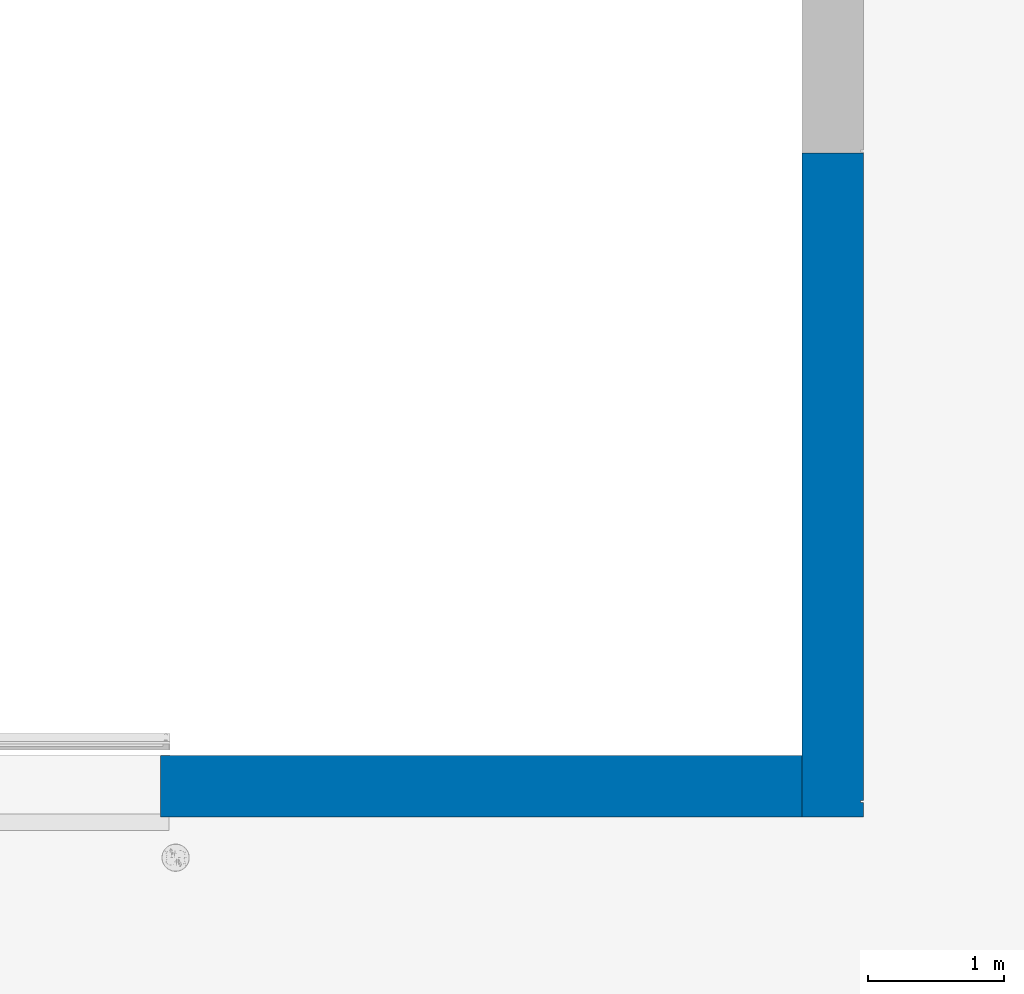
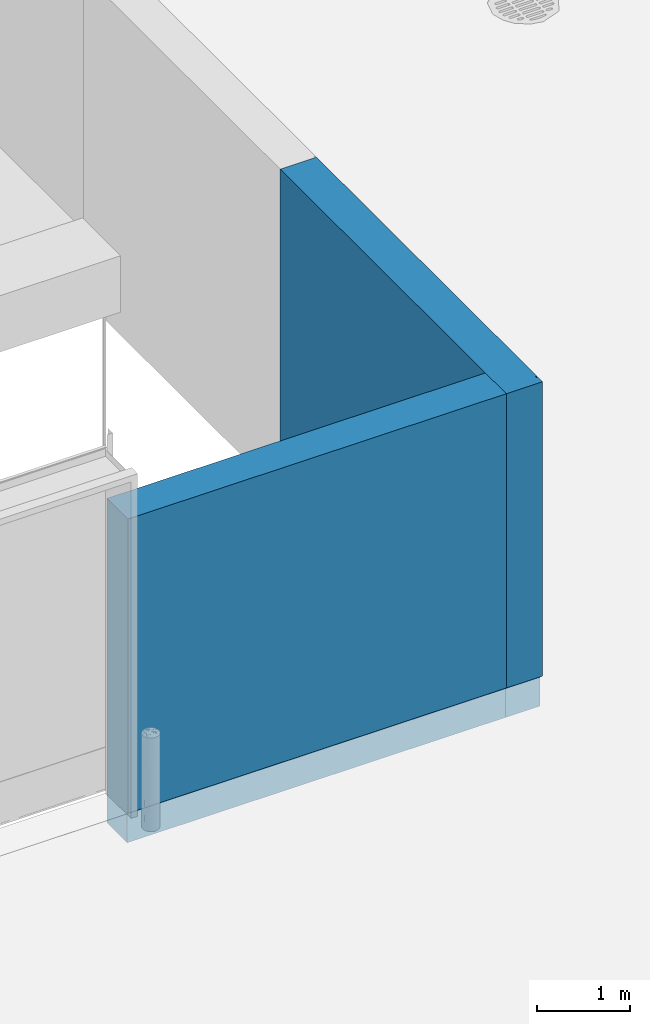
# One storey, part 16 of 77: 2 walls, 4 openings.
"""IFC2X3 building model written with IfcOpenShell, lengths in millimetres."""

from ifc_helpers import new_model, entity, si_unit, converted_unit, derived_unit, direction, frame, frame_2d, origin, origin_2d_with_axis, place, context, subcontext, project, spatial, rectangle, extrude, faceted_brep, material, layer, layer_set, layer_usage, type_object, element, save


model = new_model("IFC2X3")

# Units and contexts
model_context = context("Model", 3, precision=0.01, world=origin(), true_north=direction((6.12303176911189e-17, 1.0)))
body_context = subcontext(model_context, "Body", "Model", "MODEL_VIEW")
ifc_project = project(units=[si_unit("LENGTHUNIT", "METRE", prefix="MILLI"), si_unit("AREAUNIT", "SQUARE_METRE"), si_unit("VOLUMEUNIT", "CUBIC_METRE"), converted_unit("PLANEANGLEUNIT", "DEGREE", entity("IfcRatioMeasure", 0.0174532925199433), si_unit("PLANEANGLEUNIT", "RADIAN"), dimensions=[0, 0, 0, 0, 0, 0, 0]), si_unit("MASSUNIT", "GRAM", prefix="KILO"), derived_unit("MASSDENSITYUNIT", [(si_unit("MASSUNIT", "GRAM", prefix="KILO"), 1), (si_unit("LENGTHUNIT", "METRE"), -3)]), si_unit("TIMEUNIT", "SECOND"), si_unit("FREQUENCYUNIT", "HERTZ"), si_unit("THERMODYNAMICTEMPERATUREUNIT", "DEGREE_CELSIUS"), derived_unit("THERMALTRANSMITTANCEUNIT", [(si_unit("MASSUNIT", "GRAM", prefix="KILO"), 1), (si_unit("THERMODYNAMICTEMPERATUREUNIT", "KELVIN"), -1), (si_unit("TIMEUNIT", "SECOND"), -3)]), derived_unit("VOLUMETRICFLOWRATEUNIT", [(si_unit("LENGTHUNIT", "METRE"), 3), (si_unit("TIMEUNIT", "SECOND"), -1)]), si_unit("ELECTRICCURRENTUNIT", "AMPERE"), si_unit("ELECTRICVOLTAGEUNIT", "VOLT"), si_unit("POWERUNIT", "WATT"), si_unit("FORCEUNIT", "NEWTON", prefix="KILO"), si_unit("ILLUMINANCEUNIT", "LUX"), si_unit("LUMINOUSFLUXUNIT", "LUMEN"), si_unit("LUMINOUSINTENSITYUNIT", "CANDELA"), derived_unit("USERDEFINED", [(si_unit("MASSUNIT", "GRAM", prefix="KILO"), -1), (si_unit("LENGTHUNIT", "METRE"), -2), (si_unit("TIMEUNIT", "SECOND"), 3), (si_unit("LUMINOUSFLUXUNIT", "LUMEN"), 1)]), derived_unit("LINEARVELOCITYUNIT", [(si_unit("LENGTHUNIT", "METRE"), 1), (si_unit("TIMEUNIT", "SECOND"), -1)]), si_unit("PRESSUREUNIT", "PASCAL"), derived_unit("USERDEFINED", [(si_unit("LENGTHUNIT", "METRE"), -2), (si_unit("MASSUNIT", "GRAM", prefix="KILO"), 1), (si_unit("TIMEUNIT", "SECOND"), -2)])], contexts=[model_context])

# Site, building, storey
site_placement = place(None, origin())
site = spatial("IfcSite", under=ifc_project, at=site_placement, Name="Default", CompositionType="ELEMENT")
building_placement = place(site_placement, origin())
building = spatial("IfcBuilding", under=site, at=building_placement, CompositionType="ELEMENT")
storey_placement = place(building_placement, origin())
storey = spatial("IfcBuildingStorey", under=building, at=storey_placement, Name="1. KORRUS", CompositionType="ELEMENT", Elevation=0.0)

# Wall, openings
ifc_material_1 = material(Name="RECKLI 1 173 THUR by Polantis 2016-toon4")
ifc_layer_1 = layer(ifc_material_1, 100.0)
ifc_material_2 = material(Name="Soojusisolatsioon EPS")
ifc_layer_2 = layer(ifc_material_2, 200.0)
ifc_material_3 = material(Name="r/b")
ifc_layer_3 = layer(ifc_material_3, 150.0)
ifc_layer_set = layer_set([ifc_layer_1, ifc_layer_2, ifc_layer_3], Name="Basic Wall:VS-1_toon-a")
ifc_layer_usage_1 = layer_usage(ifc_layer_set, "AXIS2", "NEGATIVE", 225.0)
wall_type = type_object("IfcWallType", Name="Basic Wall:VS-1_toon-a", PredefinedType="STANDARD", material=ifc_layer_set)
wall_1_placement = place(storey_placement, frame((39500.0, -225.0, -400.0), z_axis=(0.0, 0.0, 1.0), x_axis=(-1.0, 0.0, 0.0)))
wall_1 = element("IfcWallStandardCase", 1, at=wall_1_placement, inside=storey, type_object=wall_type, material=ifc_layer_usage_1, Name="Basic Wall:VS-1_toon-a", ObjectType="Basic Wall:VS-1_toon-a", context=body_context, shape_type="SweptSolid", body=[
    extrude(rectangle(XDim=4700.0, YDim=450.0, at=frame_2d((2350.0, -4.2632564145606e-14), x_axis=(-1.0, 0.0))), origin(), (0.0, 0.0, 1.0), 4265.0),
])
opening_1_placement = place(wall_1_placement, origin())
element("IfcOpeningElement", 2, at=opening_1_placement, cuts=wall_1, Name="Basic Wall:VS-1_toon-a", ObjectType="Opening", context=body_context, shape_type="SweptSolid", body=[
    extrude(rectangle(XDim=4499.99999999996, YDim=3600.0, at=frame_2d((2.1600499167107e-12, 0.0), x_axis=(0.0, 1.0))), frame((6500.0, -1749.0, 2650.0), z_axis=(0.0, 1.0, 0.0), x_axis=(-1.0, 0.0, 0.0)), (0.0, 0.0, 1.0), 3048.0),
])
opening_2_placement = place(wall_1_placement, origin())
element("IfcOpeningElement", 3, at=opening_2_placement, cuts=wall_1, Name="Basic Wall:VS-1_toon-a", ObjectType="Opening", context=body_context, shape_type="Brep", body=[
    faceted_brep([(39930.0, -28255.0, 400.0), (39930.0, -28255.0, 0.0), (39950.0, -28275.0, 0.0), (39950.0, -28275.0, 400.0), (39930.0, -23515.0, 400.0), (39950.0, -23515.0, 400.0), (39950.0, -23515.0, 0.0), (39930.0, -23515.0, 0.0)], [[[0, 1, 2, 3]], [[4, 5, 6, 7]], [[1, 0, 4, 7]], [[2, 1, 7, 6]], [[3, 2, 6, 5]], [[0, 3, 5, 4]]]),
    faceted_brep([(39930.0, -28255.0, 400.0), (39950.0, -28275.0, 400.0), (39950.0, -28275.0, 0.0), (39930.0, -28255.0, 0.0), (35590.0, -28255.0, 400.0), (35590.0, -28255.0, 0.0), (35590.0, -28275.0, 0.0), (35590.0, -28275.0, 400.0)], [[[0, 1, 2, 3]], [[4, 5, 6, 7]], [[1, 0, 4, 7]], [[2, 1, 7, 6]], [[3, 2, 6, 5]], [[0, 3, 5, 4]]]),
    faceted_brep([(29870.0, -28255.0, 400.0), (29850.0, -28275.0, 400.0), (29850.0, -28275.0, 0.0), (29870.0, -28255.0, 0.0), (29870.0, -22155.0517807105, 400.0), (29870.0, -22155.0517807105, 0.0), (29850.0, -22175.0517807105, 0.0), (29850.0, -22175.0517807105, 400.0)], [[[0, 1, 2, 3]], [[4, 5, 6, 7]], [[1, 0, 4, 7]], [[2, 1, 7, 6]], [[3, 2, 6, 5]], [[0, 3, 5, 4]]]),
    faceted_brep([(25150.0, -22155.0517807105, 400.0), (25150.0, -22175.0517807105, 400.0), (25150.0, -22175.0517807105, 0.0), (25150.0, -22155.0517807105, 0.0), (24620.0, -22155.0517807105, 400.0), (24620.0, -22155.0517807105, 0.0), (24620.0, -22175.0517807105, 0.0), (24620.0, -22175.0517807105, 400.0)], [[[0, 1, 2, 3]], [[4, 5, 6, 7]], [[1, 0, 4, 7]], [[2, 1, 7, 6]], [[3, 2, 6, 5]], [[0, 3, 5, 4]]]),
    faceted_brep([(-430.0, -22155.0517807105, 400.0), (-450.0, -22175.0517807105, 400.0), (-450.0, -22175.0517807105, 0.0), (-430.0, -22155.0517807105, 0.0), (-430.0, -16015.0, 400.0), (-430.0, -16015.0, 0.0), (-450.0, -16015.0, 0.0), (-450.0, -16015.0, 400.0)], [[[0, 1, 2, 3]], [[4, 5, 6, 7]], [[1, 0, 4, 7]], [[2, 1, 7, 6]], [[3, 2, 6, 5]], [[0, 3, 5, 4]]]),
    faceted_brep([(-430.0, 205.0, 400.0), (-450.0, 225.0, 400.0), (-450.0, 225.0, 0.0), (-430.0, 205.0, 0.0), (4700.0, 205.0, 400.0), (4700.0, 205.0, 0.0), (4700.0, 225.0, 0.0), (4700.0, 225.0, 400.0)], [[[0, 1, 2, 3]], [[4, 5, 6, 7]], [[1, 0, 4, 7]], [[2, 1, 7, 6]], [[3, 2, 6, 5]], [[0, 3, 5, 4]]]),
    faceted_brep([(28100.0, 205.0, 400.0), (28100.0, 225.0, 400.0), (28100.0, 225.0, 0.0), (28100.0, 205.0, 0.0), (31885.0, 205.0, 400.0), (31885.0, 205.0, 0.0), (31885.0, 225.0, 0.0), (31885.0, 225.0, 400.0)], [[[0, 1, 2, 3]], [[4, 5, 6, 7]], [[1, 0, 4, 7]], [[2, 1, 7, 6]], [[3, 2, 6, 5]], [[0, 3, 5, 4]]]),
    faceted_brep([(-430.0, -12985.0, 400.0), (-450.0, -12985.0, 400.0), (-450.0, -12985.0, 0.0), (-430.0, -12985.0, 0.0), (-430.0, -8868.33000000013, 400.0), (-430.0, -8868.33000000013, 0.0), (-450.0, -8868.33000000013, 0.0), (-450.0, -8868.33000000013, 400.0)], [[[0, 1, 2, 3]], [[4, 5, 6, 7]], [[1, 0, 4, 7]], [[2, 1, 7, 6]], [[3, 2, 6, 5]], [[0, 3, 5, 4]]]),
    faceted_brep([(8300.0, 205.0, 400.0), (8300.0, 225.0, 400.0), (8300.0, 225.0, 0.0), (8300.0, 205.0, 0.0), (10700.0, 205.0, 400.0), (10700.0, 205.0, 0.0), (10700.0, 225.0, 0.0), (10700.0, 225.0, 400.0)], [[[0, 1, 2, 3]], [[4, 5, 6, 7]], [[1, 0, 4, 7]], [[2, 1, 7, 6]], [[3, 2, 6, 5]], [[0, 3, 5, 4]]]),
    faceted_brep([(35709.969176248, 205.0, 400.0), (35709.969176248, 225.0, 400.0), (35709.969176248, 225.0, 0.0), (35709.969176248, 205.0, 0.0), (38194.969176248, 205.0, 400.0), (38194.969176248, 205.0, 0.0), (38194.969176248, 225.0, 0.0), (38194.969176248, 225.0, 400.0)], [[[0, 1, 2, 3]], [[4, 5, 6, 7]], [[1, 0, 4, 7]], [[2, 1, 7, 6]], [[3, 2, 6, 5]], [[0, 3, 5, 4]]]),
    faceted_brep([(23500.0, 205.0, 400.0), (23500.0, 225.0, 400.0), (23500.0, 225.0, 0.0), (23500.0, 205.0, 0.0), (24500.0, 205.0, 400.0), (24500.0, 205.0, 0.0), (24500.0, 225.0, 0.0), (24500.0, 225.0, 400.0)], [[[0, 1, 2, 3]], [[4, 5, 6, 7]], [[1, 0, 4, 7]], [[2, 1, 7, 6]], [[3, 2, 6, 5]], [[0, 3, 5, 4]]]),
    faceted_brep([(18899.9683370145, 205.0, 400.0), (18899.9683370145, 225.0, 400.0), (18899.9683370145, 225.0, 0.0), (18899.9683370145, 205.0, 0.0), (19900.0, 205.0, 400.0), (19900.0, 205.0, 0.0), (19900.0, 225.0, 0.0), (19900.0, 225.0, 400.0)], [[[0, 1, 2, 3]], [[4, 5, 6, 7]], [[1, 0, 4, 7]], [[2, 1, 7, 6]], [[3, 2, 6, 5]], [[0, 3, 5, 4]]]),
    faceted_brep([(14299.9683370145, 205.0, 400.0), (14299.9683370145, 225.0, 400.0), (14299.9683370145, 225.0, 0.0), (14299.9683370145, 205.0, 0.0), (15300.0, 205.0, 400.0), (15300.0, 205.0, 0.0), (15300.0, 225.0, 0.0), (15300.0, 225.0, 400.0)], [[[0, 1, 2, 3]], [[4, 5, 6, 7]], [[1, 0, 4, 7]], [[2, 1, 7, 6]], [[3, 2, 6, 5]], [[0, 3, 5, 4]]]),
    faceted_brep([(-430.0, -4640.0, 400.0), (-450.0, -4640.0, 400.0), (-450.0, -4640.0, 0.0), (-430.0, -4640.0, 0.0), (-430.0, 205.0, 400.0), (-430.0, 205.0, 0.0), (-450.0, 225.0, 0.0), (-450.0, 225.0, 400.0)], [[[0, 1, 2, 3]], [[4, 5, 6, 7]], [[1, 0, 4, 7]], [[2, 1, 7, 6]], [[3, 2, 6, 5]], [[0, 3, 5, 4]]]),
    faceted_brep([(-430.0, -8868.33000000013, 400.0), (-450.0, -8868.33000000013, 400.0), (-450.0, -8868.33000000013, 0.0), (-430.0, -8868.33000000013, 0.0), (-430.0, -4640.0, 400.0), (-430.0, -4640.0, 0.0), (-450.0, -4640.0, 0.0), (-450.0, -4640.0, 400.0)], [[[0, 1, 2, 3]], [[4, 5, 6, 7]], [[1, 0, 4, 7]], [[2, 1, 7, 6]], [[3, 2, 6, 5]], [[0, 3, 5, 4]]]),
    faceted_brep([(-430.0, -16015.0, 400.0), (-450.0, -16015.0, 400.0), (-450.0, -16015.0, 0.0), (-430.0, -16015.0, 0.0), (-430.0, -12985.0, 400.0), (-430.0, -12985.0, 0.0), (-450.0, -12985.0, 0.0), (-450.0, -12985.0, 400.0)], [[[0, 1, 2, 3]], [[4, 5, 6, 7]], [[1, 0, 4, 7]], [[2, 1, 7, 6]], [[3, 2, 6, 5]], [[0, 3, 5, 4]]]),
    faceted_brep([(5529.8964297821, -22155.0517807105, 400.0), (5529.8964297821, -22175.0517807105, 400.0), (5529.8964297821, -22175.0517807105, 0.0), (5529.8964297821, -22155.0517807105, 0.0), (-430.0, -22155.0517807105, 400.0), (-430.0, -22155.0517807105, 0.0), (-450.0, -22175.0517807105, 0.0), (-450.0, -22175.0517807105, 400.0)], [[[0, 1, 2, 3]], [[4, 5, 6, 7]], [[1, 0, 4, 7]], [[2, 1, 7, 6]], [[3, 2, 6, 5]], [[0, 3, 5, 4]]]),
    faceted_brep([(10836.7838512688, -22155.0517807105, 400.0), (10836.7838512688, -22175.0517807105, 400.0), (10836.7838512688, -22175.0517807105, 0.0), (10836.7838512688, -22155.0517807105, 0.0), (5529.8964297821, -22155.0517807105, 400.0), (5529.8964297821, -22155.0517807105, 0.0), (5529.8964297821, -22175.0517807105, 0.0), (5529.8964297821, -22175.0517807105, 400.0)], [[[0, 1, 2, 3]], [[4, 5, 6, 7]], [[1, 0, 4, 7]], [[2, 1, 7, 6]], [[3, 2, 6, 5]], [[0, 3, 5, 4]]]),
    faceted_brep([(31885.0, 205.0, 400.0), (31885.0, 225.0, 400.0), (31885.0, 225.0, 0.0), (31885.0, 205.0, 0.0), (35709.969176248, 205.0, 400.0), (35709.969176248, 205.0, 0.0), (35709.969176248, 225.0, 0.0), (35709.969176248, 225.0, 400.0)], [[[0, 1, 2, 3]], [[4, 5, 6, 7]], [[1, 0, 4, 7]], [[2, 1, 7, 6]], [[3, 2, 6, 5]], [[0, 3, 5, 4]]]),
    faceted_brep([(17415.0, -22155.0517807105, 400.0), (17415.0, -22175.0517807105, 400.0), (17415.0, -22175.0517807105, 0.0), (17415.0, -22155.0517807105, 0.0), (10836.7838512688, -22155.0517807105, 400.0), (10836.7838512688, -22155.0517807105, 0.0), (10836.7838512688, -22175.0517807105, 0.0), (10836.7838512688, -22175.0517807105, 400.0)], [[[0, 1, 2, 3]], [[4, 5, 6, 7]], [[1, 0, 4, 7]], [[2, 1, 7, 6]], [[3, 2, 6, 5]], [[0, 3, 5, 4]]]),
    faceted_brep([(21246.6471089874, -22155.0517807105, 400.0), (21246.6471089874, -22175.0517807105, 400.0), (21246.6471089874, -22175.0517807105, 0.0), (21246.6471089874, -22155.0517807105, 0.0), (17415.0, -22155.0517807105, 400.0), (17415.0, -22155.0517807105, 0.0), (17415.0, -22175.0517807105, 0.0), (17415.0, -22175.0517807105, 400.0)], [[[0, 1, 2, 3]], [[4, 5, 6, 7]], [[1, 0, 4, 7]], [[2, 1, 7, 6]], [[3, 2, 6, 5]], [[0, 3, 5, 4]]]),
    faceted_brep([(24620.0, -22155.0517807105, 400.0), (24620.0, -22175.0517807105, 400.0), (24620.0, -22175.0517807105, 0.0), (24620.0, -22155.0517807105, 0.0), (21246.6471089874, -22155.0517807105, 400.0), (21246.6471089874, -22155.0517807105, 0.0), (21246.6471089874, -22175.0517807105, 0.0), (21246.6471089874, -22175.0517807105, 400.0)], [[[0, 1, 2, 3]], [[4, 5, 6, 7]], [[1, 0, 4, 7]], [[2, 1, 7, 6]], [[3, 2, 6, 5]], [[0, 3, 5, 4]]]),
    faceted_brep([(35590.0, -28255.0, 400.0), (35590.0, -28275.0, 400.0), (35590.0, -28275.0, 0.0), (35590.0, -28255.0, 0.0), (29870.0, -28255.0, 400.0), (29870.0, -28255.0, 0.0), (29850.0, -28275.0, 0.0), (29850.0, -28275.0, 400.0)], [[[0, 1, 2, 3]], [[4, 5, 6, 7]], [[1, 0, 4, 7]], [[2, 1, 7, 6]], [[3, 2, 6, 5]], [[0, 3, 5, 4]]]),
    faceted_brep([(39930.0, -23515.0, 400.0), (39930.0, -23515.0, 0.0), (39950.0, -23515.0, 0.0), (39950.0, -23515.0, 400.0), (39930.0, -17965.0006972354, 400.0), (39950.0, -17965.0006972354, 400.0), (39950.0, -17965.0006972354, 0.0), (39930.0, -17965.0006972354, 0.0)], [[[0, 1, 2, 3]], [[4, 5, 6, 7]], [[1, 0, 4, 7]], [[2, 1, 7, 6]], [[3, 2, 6, 5]], [[0, 3, 5, 4]]]),
    faceted_brep([(39930.0, -17965.0006972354, 400.0), (39930.0, -17965.0006972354, 0.0), (39950.0, -17965.0006972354, 0.0), (39950.0, -17965.0006972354, 400.0), (39930.0, -13025.0, 400.0), (39950.0, -13025.0, 400.0), (39950.0, -13025.0, 0.0), (39930.0, -13025.0, 0.0)], [[[0, 1, 2, 3]], [[4, 5, 6, 7]], [[1, 0, 4, 7]], [[2, 1, 7, 6]], [[3, 2, 6, 5]], [[0, 3, 5, 4]]]),
    faceted_brep([(29870.0, -22155.0517807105, 400.0), (29850.0, -22175.0517807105, 400.0), (29850.0, -22175.0517807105, 0.0), (29870.0, -22155.0517807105, 0.0), (28750.0, -22155.0517807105, 400.0), (28750.0, -22155.0517807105, 0.0), (28750.0, -22175.0517807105, 0.0), (28750.0, -22175.0517807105, 400.0)], [[[0, 1, 2, 3]], [[4, 5, 6, 7]], [[1, 0, 4, 7]], [[2, 1, 7, 6]], [[3, 2, 6, 5]], [[0, 3, 5, 4]]]),
])

ifc_layer_usage_2 = layer_usage(ifc_layer_set, "AXIS2", "NEGATIVE", 225.0)
wall_2_placement = place(storey_placement, frame((39725.0, 4415.0, -400.0), z_axis=(0.0, 0.0, 1.0), x_axis=(0.0, -1.0, 0.0)))
wall_2 = element("IfcWallStandardCase", 4, at=wall_2_placement, inside=storey, type_object=wall_type, material=ifc_layer_usage_2, Name="Basic Wall:VS-1_toon-a", ObjectType="Basic Wall:VS-1_toon-a", context=body_context, shape_type="SweptSolid", body=[
    extrude(rectangle(XDim=4865.0, YDim=450.000000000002, at=frame_2d((2432.5, -3.5527136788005e-13), x_axis=(-1.0, 0.0))), origin(), (0.0, 0.0, 1.0), 4265.0),
])
opening_3_placement = place(wall_2_placement, origin())
element("IfcOpeningElement", 5, at=opening_3_placement, cuts=wall_2, Name="Basic Wall:VS-1_toon-a", ObjectType="Recess", context=body_context, shape_type="SweptSolid", body=[
    extrude(rectangle(XDim=4265.0, YDim=16.0, at=origin_2d_with_axis()), frame((4752.99988172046, 205.0, 2132.5), z_axis=(0.0, 1.0, 0.0), x_axis=(0.0, 0.0, 1.0)), (0.0, 0.0, 1.0), 20.0000000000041),
    extrude(rectangle(XDim=4835.0, YDim=16.0, at=frame_2d((2.27373675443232e-13, 0.0), x_axis=(1.0, 0.0))), frame((4752.99988172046, 205.0, 6682.5), z_axis=(0.0, 1.0, 0.0), x_axis=(0.0, 0.0, 1.0)), (0.0, 0.0, 1.0), 20.0000000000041),
])
opening_4_placement = place(wall_2_placement, origin())
element("IfcOpeningElement", 6, at=opening_4_placement, cuts=wall_2, Name="Basic Wall:VS-1_toon-a", ObjectType="Opening", context=body_context, shape_type="Brep", body=[
    faceted_brep([(-23615.0, -40155.0, 400.0), (-23615.0, -40155.0, 0.0), (-23635.0, -40175.0, 0.0), (-23635.0, -40175.0, 400.0), (-18875.0, -40155.0, 400.0), (-18875.0, -40175.0, 400.0), (-18875.0, -40175.0, 0.0), (-18875.0, -40155.0, 0.0)], [[[0, 1, 2, 3]], [[4, 5, 6, 7]], [[1, 0, 4, 7]], [[2, 1, 7, 6]], [[3, 2, 6, 5]], [[0, 3, 5, 4]]]),
    faceted_brep([(-23615.0, -40155.0, 400.0), (-23635.0, -40175.0, 400.0), (-23635.0, -40175.0, 0.0), (-23615.0, -40155.0, 0.0), (-23615.0, -35815.0, 400.0), (-23615.0, -35815.0, 0.0), (-23635.0, -35815.0, 0.0), (-23635.0, -35815.0, 400.0)], [[[0, 1, 2, 3]], [[4, 5, 6, 7]], [[1, 0, 4, 7]], [[2, 1, 7, 6]], [[3, 2, 6, 5]], [[0, 3, 5, 4]]]),
    faceted_brep([(-23615.0, -30095.0, 400.0), (-23635.0, -30075.0, 400.0), (-23635.0, -30075.0, 0.0), (-23615.0, -30095.0, 0.0), (-17515.0517807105, -30095.0, 400.0), (-17515.0517807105, -30095.0, 0.0), (-17535.0517807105, -30075.0, 0.0), (-17535.0517807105, -30075.0, 400.0)], [[[0, 1, 2, 3]], [[4, 5, 6, 7]], [[1, 0, 4, 7]], [[2, 1, 7, 6]], [[3, 2, 6, 5]], [[0, 3, 5, 4]]]),
    faceted_brep([(-17515.0517807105, -25375.0, 400.0), (-17535.0517807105, -25375.0, 400.0), (-17535.0517807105, -25375.0, 0.0), (-17515.0517807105, -25375.0, 0.0), (-17515.0517807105, -24845.0, 400.0), (-17515.0517807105, -24845.0, 0.0), (-17535.0517807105, -24845.0, 0.0), (-17535.0517807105, -24845.0, 400.0)], [[[0, 1, 2, 3]], [[4, 5, 6, 7]], [[1, 0, 4, 7]], [[2, 1, 7, 6]], [[3, 2, 6, 5]], [[0, 3, 5, 4]]]),
    faceted_brep([(-17515.0517807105, 205.0, 400.0), (-17535.0517807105, 225.0, 400.0), (-17535.0517807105, 225.0, 0.0), (-17515.0517807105, 205.0, 0.0), (-11375.0, 205.0, 400.0), (-11375.0, 205.0, 0.0), (-11375.0, 225.0, 0.0), (-11375.0, 225.0, 400.0)], [[[0, 1, 2, 3]], [[4, 5, 6, 7]], [[1, 0, 4, 7]], [[2, 1, 7, 6]], [[3, 2, 6, 5]], [[0, 3, 5, 4]]]),
    faceted_brep([(4845.0, 205.0, 400.0), (4865.0, 225.0, 400.0), (4865.0, 225.0, 0.0), (4845.0, 205.0, 0.0), (4845.0, -4925.0, 400.0), (4845.0, -4925.0, 0.0), (4865.0, -4925.0, 0.0), (4865.0, -4925.0, 400.0)], [[[0, 1, 2, 3]], [[4, 5, 6, 7]], [[1, 0, 4, 7]], [[2, 1, 7, 6]], [[3, 2, 6, 5]], [[0, 3, 5, 4]]]),
    faceted_brep([(4845.0, -28325.0, 400.0), (4865.0, -28325.0, 400.0), (4865.0, -28325.0, 0.0), (4845.0, -28325.0, 0.0), (4845.0, -32110.0, 400.0), (4845.0, -32110.0, 0.0), (4865.0, -32110.0, 0.0), (4865.0, -32110.0, 400.0)], [[[0, 1, 2, 3]], [[4, 5, 6, 7]], [[1, 0, 4, 7]], [[2, 1, 7, 6]], [[3, 2, 6, 5]], [[0, 3, 5, 4]]]),
    faceted_brep([(-8345.0, 205.0, 400.0), (-8345.0, 225.0, 400.0), (-8345.0, 225.0, 0.0), (-8345.0, 205.0, 0.0), (-4228.33000000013, 205.0, 400.0), (-4228.33000000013, 205.0, 0.0), (-4228.33000000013, 225.0, 0.0), (-4228.33000000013, 225.0, 400.0)], [[[0, 1, 2, 3]], [[4, 5, 6, 7]], [[1, 0, 4, 7]], [[2, 1, 7, 6]], [[3, 2, 6, 5]], [[0, 3, 5, 4]]]),
    faceted_brep([(4845.0, -8525.0, 400.0), (4865.0, -8525.0, 400.0), (4865.0, -8525.0, 0.0), (4845.0, -8525.0, 0.0), (4845.0, -10925.0, 400.0), (4845.0, -10925.0, 0.0), (4865.0, -10925.0, 0.0), (4865.0, -10925.0, 400.0)], [[[0, 1, 2, 3]], [[4, 5, 6, 7]], [[1, 0, 4, 7]], [[2, 1, 7, 6]], [[3, 2, 6, 5]], [[0, 3, 5, 4]]]),
    faceted_brep([(4845.0, -35934.969176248, 400.0), (4865.0, -35934.969176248, 400.0), (4865.0, -35934.969176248, 0.0), (4845.0, -35934.969176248, 0.0), (4845.0, -38419.969176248, 400.0), (4845.0, -38419.969176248, 0.0), (4865.0, -38419.969176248, 0.0), (4865.0, -38419.969176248, 400.0)], [[[0, 1, 2, 3]], [[4, 5, 6, 7]], [[1, 0, 4, 7]], [[2, 1, 7, 6]], [[3, 2, 6, 5]], [[0, 3, 5, 4]]]),
    faceted_brep([(4845.0, -23725.0, 400.0), (4865.0, -23725.0, 400.0), (4865.0, -23725.0, 0.0), (4845.0, -23725.0, 0.0), (4845.0, -24725.0, 400.0), (4845.0, -24725.0, 0.0), (4865.0, -24725.0, 0.0), (4865.0, -24725.0, 400.0)], [[[0, 1, 2, 3]], [[4, 5, 6, 7]], [[1, 0, 4, 7]], [[2, 1, 7, 6]], [[3, 2, 6, 5]], [[0, 3, 5, 4]]]),
    faceted_brep([(4845.0, -19124.9683370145, 400.0), (4865.0, -19124.9683370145, 400.0), (4865.0, -19124.9683370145, 0.0), (4845.0, -19124.9683370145, 0.0), (4845.0, -20125.0, 400.0), (4845.0, -20125.0, 0.0), (4865.0, -20125.0, 0.0), (4865.0, -20125.0, 400.0)], [[[0, 1, 2, 3]], [[4, 5, 6, 7]], [[1, 0, 4, 7]], [[2, 1, 7, 6]], [[3, 2, 6, 5]], [[0, 3, 5, 4]]]),
    faceted_brep([(4845.0, -14524.9683370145, 400.0), (4865.0, -14524.9683370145, 400.0), (4865.0, -14524.9683370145, 0.0), (4845.0, -14524.9683370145, 0.0), (4845.0, -15525.0, 400.0), (4845.0, -15525.0, 0.0), (4865.0, -15525.0, 0.0), (4865.0, -15525.0, 400.0)], [[[0, 1, 2, 3]], [[4, 5, 6, 7]], [[1, 0, 4, 7]], [[2, 1, 7, 6]], [[3, 2, 6, 5]], [[0, 3, 5, 4]]]),
    faceted_brep([(0.0, 205.0, 400.0), (0.0, 225.0, 400.0), (0.0, 225.0, 0.0), (0.0, 205.0, 0.0), (4845.0, 205.0, 400.0), (4845.0, 205.0, 0.0), (4865.0, 225.0, 0.0), (4865.0, 225.0, 400.0)], [[[0, 1, 2, 3]], [[4, 5, 6, 7]], [[1, 0, 4, 7]], [[2, 1, 7, 6]], [[3, 2, 6, 5]], [[0, 3, 5, 4]]]),
    faceted_brep([(-4228.33000000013, 205.0, 400.0), (-4228.33000000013, 225.0, 400.0), (-4228.33000000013, 225.0, 0.0), (-4228.33000000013, 205.0, 0.0), (0.0, 205.0, 400.0), (0.0, 205.0, 0.0), (0.0, 225.0, 0.0), (0.0, 225.0, 400.0)], [[[0, 1, 2, 3]], [[4, 5, 6, 7]], [[1, 0, 4, 7]], [[2, 1, 7, 6]], [[3, 2, 6, 5]], [[0, 3, 5, 4]]]),
    faceted_brep([(-11375.0, 205.0, 400.0), (-11375.0, 225.0, 400.0), (-11375.0, 225.0, 0.0), (-11375.0, 205.0, 0.0), (-8345.0, 205.0, 400.0), (-8345.0, 205.0, 0.0), (-8345.0, 225.0, 0.0), (-8345.0, 225.0, 400.0)], [[[0, 1, 2, 3]], [[4, 5, 6, 7]], [[1, 0, 4, 7]], [[2, 1, 7, 6]], [[3, 2, 6, 5]], [[0, 3, 5, 4]]]),
    faceted_brep([(-17515.0517807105, -5754.89642978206, 400.0), (-17535.0517807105, -5754.89642978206, 400.0), (-17535.0517807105, -5754.89642978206, 0.0), (-17515.0517807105, -5754.89642978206, 0.0), (-17515.0517807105, 205.0, 400.0), (-17515.0517807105, 205.0, 0.0), (-17535.0517807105, 225.0, 0.0), (-17535.0517807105, 225.0, 400.0)], [[[0, 1, 2, 3]], [[4, 5, 6, 7]], [[1, 0, 4, 7]], [[2, 1, 7, 6]], [[3, 2, 6, 5]], [[0, 3, 5, 4]]]),
    faceted_brep([(-17515.0517807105, -11061.7838512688, 400.0), (-17535.0517807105, -11061.7838512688, 400.0), (-17535.0517807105, -11061.7838512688, 0.0), (-17515.0517807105, -11061.7838512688, 0.0), (-17515.0517807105, -5754.89642978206, 400.0), (-17515.0517807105, -5754.89642978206, 0.0), (-17535.0517807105, -5754.89642978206, 0.0), (-17535.0517807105, -5754.89642978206, 400.0)], [[[0, 1, 2, 3]], [[4, 5, 6, 7]], [[1, 0, 4, 7]], [[2, 1, 7, 6]], [[3, 2, 6, 5]], [[0, 3, 5, 4]]]),
    faceted_brep([(4845.0, -32110.0, 400.0), (4865.0, -32110.0, 400.0), (4865.0, -32110.0, 0.0), (4845.0, -32110.0, 0.0), (4845.0, -35934.969176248, 400.0), (4845.0, -35934.969176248, 0.0), (4865.0, -35934.969176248, 0.0), (4865.0, -35934.969176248, 400.0)], [[[0, 1, 2, 3]], [[4, 5, 6, 7]], [[1, 0, 4, 7]], [[2, 1, 7, 6]], [[3, 2, 6, 5]], [[0, 3, 5, 4]]]),
    faceted_brep([(-17515.0517807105, -17640.0, 400.0), (-17535.0517807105, -17640.0, 400.0), (-17535.0517807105, -17640.0, 0.0), (-17515.0517807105, -17640.0, 0.0), (-17515.0517807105, -11061.7838512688, 400.0), (-17515.0517807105, -11061.7838512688, 0.0), (-17535.0517807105, -11061.7838512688, 0.0), (-17535.0517807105, -11061.7838512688, 400.0)], [[[0, 1, 2, 3]], [[4, 5, 6, 7]], [[1, 0, 4, 7]], [[2, 1, 7, 6]], [[3, 2, 6, 5]], [[0, 3, 5, 4]]]),
    faceted_brep([(-17515.0517807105, -21471.6471089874, 400.0), (-17535.0517807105, -21471.6471089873, 400.0), (-17535.0517807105, -21471.6471089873, 0.0), (-17515.0517807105, -21471.6471089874, 0.0), (-17515.0517807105, -17640.0, 400.0), (-17515.0517807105, -17640.0, 0.0), (-17535.0517807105, -17640.0, 0.0), (-17535.0517807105, -17640.0, 400.0)], [[[0, 1, 2, 3]], [[4, 5, 6, 7]], [[1, 0, 4, 7]], [[2, 1, 7, 6]], [[3, 2, 6, 5]], [[0, 3, 5, 4]]]),
    faceted_brep([(-17515.0517807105, -24845.0, 400.0), (-17535.0517807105, -24845.0, 400.0), (-17535.0517807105, -24845.0, 0.0), (-17515.0517807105, -24845.0, 0.0), (-17515.0517807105, -21471.6471089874, 400.0), (-17515.0517807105, -21471.6471089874, 0.0), (-17535.0517807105, -21471.6471089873, 0.0), (-17535.0517807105, -21471.6471089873, 400.0)], [[[0, 1, 2, 3]], [[4, 5, 6, 7]], [[1, 0, 4, 7]], [[2, 1, 7, 6]], [[3, 2, 6, 5]], [[0, 3, 5, 4]]]),
    faceted_brep([(-23615.0, -35815.0, 400.0), (-23635.0, -35815.0, 400.0), (-23635.0, -35815.0, 0.0), (-23615.0, -35815.0, 0.0), (-23615.0, -30095.0, 400.0), (-23615.0, -30095.0, 0.0), (-23635.0, -30075.0, 0.0), (-23635.0, -30075.0, 400.0)], [[[0, 1, 2, 3]], [[4, 5, 6, 7]], [[1, 0, 4, 7]], [[2, 1, 7, 6]], [[3, 2, 6, 5]], [[0, 3, 5, 4]]]),
    faceted_brep([(-18875.0, -40155.0, 400.0), (-18875.0, -40155.0, 0.0), (-18875.0, -40175.0, 0.0), (-18875.0, -40175.0, 400.0), (-13325.0006972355, -40155.0, 400.0), (-13325.0006972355, -40175.0, 400.0), (-13325.0006972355, -40175.0, 0.0), (-13325.0006972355, -40155.0, 0.0)], [[[0, 1, 2, 3]], [[4, 5, 6, 7]], [[1, 0, 4, 7]], [[2, 1, 7, 6]], [[3, 2, 6, 5]], [[0, 3, 5, 4]]]),
    faceted_brep([(-13325.0006972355, -40155.0, 400.0), (-13325.0006972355, -40155.0, 0.0), (-13325.0006972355, -40175.0, 0.0), (-13325.0006972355, -40175.0, 400.0), (-8385.0, -40155.0, 400.0), (-8385.0, -40175.0, 400.0), (-8385.0, -40175.0, 0.0), (-8385.0, -40155.0, 0.0)], [[[0, 1, 2, 3]], [[4, 5, 6, 7]], [[1, 0, 4, 7]], [[2, 1, 7, 6]], [[3, 2, 6, 5]], [[0, 3, 5, 4]]]),
    faceted_brep([(-17515.0517807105, -30095.0, 400.0), (-17535.0517807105, -30075.0, 400.0), (-17535.0517807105, -30075.0, 0.0), (-17515.0517807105, -30095.0, 0.0), (-17515.0517807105, -28975.0, 400.0), (-17515.0517807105, -28975.0, 0.0), (-17535.0517807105, -28975.0, 0.0), (-17535.0517807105, -28975.0, 400.0)], [[[0, 1, 2, 3]], [[4, 5, 6, 7]], [[1, 0, 4, 7]], [[2, 1, 7, 6]], [[3, 2, 6, 5]], [[0, 3, 5, 4]]]),
])

save(model, "model.ifc")
